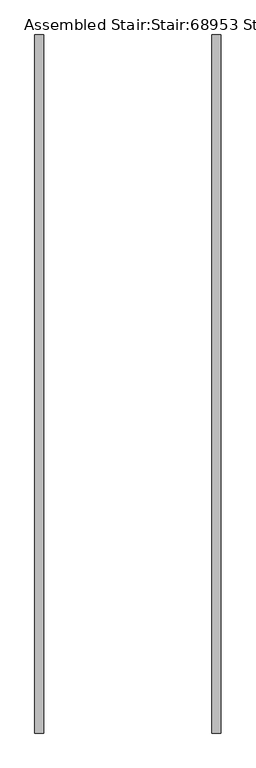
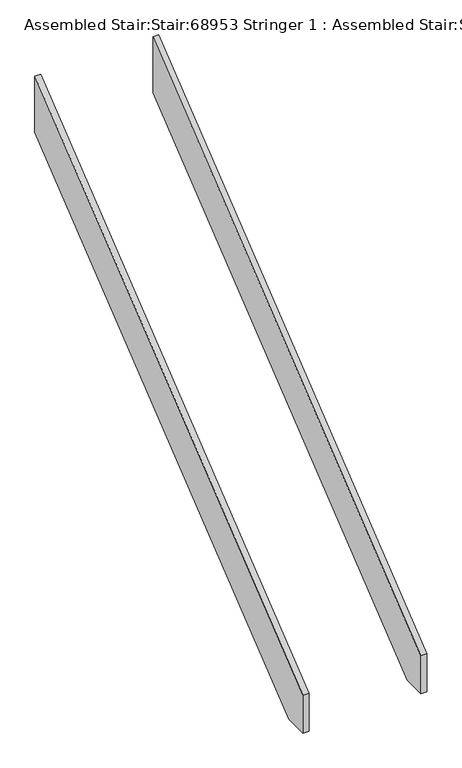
"""IFC4 building model written with IfcOpenShell, lengths in millimetres: stair geometry, Assembled Stair:Stair:68953 Stringer 1 : Assembled Stair:Stair:68953 Stringer 1."""

from ifc_helpers import new_model, si_unit, frame, origin, place, context, project, spatial, polyline, outline, extrude, source, transform, mapped, element, save


def assembled_stair_stair_68953_stringer_1_assembled_stair_stair_a13841a0(model_context):
    return source(origin(), model_context, "Body", "SweptSolid", [
        extrude(outline(polyline([(-25144.8565809, 0.0), (-25324.6322236, 0.0), (-25324.6322236, 304.4817026), (-21804.6322236, 3128.0111144), (-21804.6322236, 2679.3243508), (-25144.8565809, 0.0)])), frame((20199.8089026, 0.0, 0.0), z_axis=(1.0, 0.0, 0.0), x_axis=(0.0, 1.0, 0.0)), (0.0, 0.0, 1.0), 45.0),
        extrude(outline(polyline([(-25144.8565809, 0.0), (-25324.6322236, 0.0), (-25324.6322236, 304.4817026), (-21804.6322236, 3128.0111144), (-21804.6322236, 2679.3243508), (-25144.8565809, 0.0)])), frame((19304.8089026, 0.0, 0.0), z_axis=(1.0, 0.0, 0.0), x_axis=(0.0, 1.0, 0.0)), (0.0, 0.0, 1.0), 45.0),
    ])


if __name__ == "__main__":
    model = new_model("IFC4")
    model_context = context("Model", 3, world=origin())
    ifc_project = project(units=[si_unit("LENGTHUNIT", "METRE", prefix="MILLI")], contexts=[model_context])
    site = spatial("IfcSite", under=ifc_project)
    building = spatial("IfcBuilding", under=site)
    placement = place(None, origin())
    assembled_stair_stair_68953_stringer_1_assembled_stair_stair_shape = assembled_stair_stair_68953_stringer_1_assembled_stair_stair_a13841a0(model_context)
    element("IfcStair", 1, ObjectType="Assembled Stair:Stair:68953 Stringer 1 : Assembled Stair:Stair:68953 Stringer 1", at=placement, inside=building, context=model_context, shape_type="MappedRepresentation", body=[
        mapped(assembled_stair_stair_68953_stringer_1_assembled_stair_stair_shape, transform((0.0, 0.0, 0.0), x_axis=(1.0, 0.0, 0.0), y_axis=(0.0, 1.0, 0.0), z_axis=(0.0, 0.0, 1.0))),
    ])
    save(model, "model.ifc")
